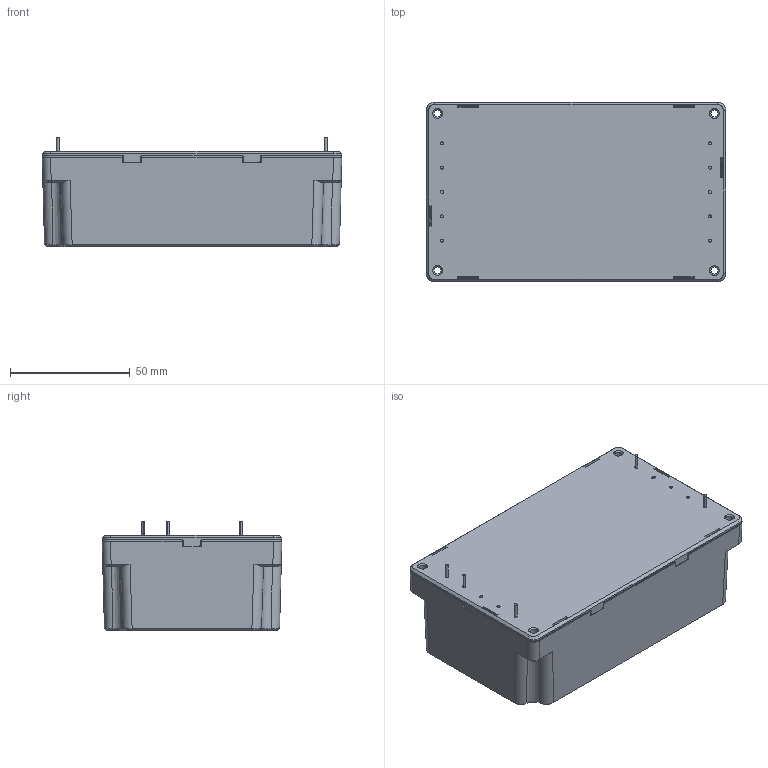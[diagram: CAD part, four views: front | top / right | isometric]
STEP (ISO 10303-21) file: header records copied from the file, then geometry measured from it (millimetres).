
FILE_DESCRIPTION((''),'2;1');
FILE_NAME('JVA401500SXX_ASM','2017-11-02T',('eng706'),(''),'PRO/ENGINEER BY PARAMETRIC TECHNOLOGY CORPORATION, 2014000','PRO/ENGINEER BY PARAMETRIC TECHNOLOGY CORPORATION, 2014000','');
FILE_SCHEMA(('AUTOMOTIVE_DESIGN { 1 0 10303 214 1 1 1 1 }'));
Products named in the file (7): MANIFOLD_SOLID_BREP_102692; MANIFOLD_SOLID_BREP_102780; MANIFOLD_SOLID_BREP_102868; MANIFOLD_SOLID_BREP_102956; MANIFOLD_SOLID_BREP_103044; MANIFOLD_SOLID_BREP_103132; JVA401500SXX_ASM
Assembly tree (6 placements, depth 2):
  JVA401500SXX_ASM
    MANIFOLD_SOLID_BREP_102692
    MANIFOLD_SOLID_BREP_102780
    MANIFOLD_SOLID_BREP_102868
    MANIFOLD_SOLID_BREP_102956
    MANIFOLD_SOLID_BREP_103044
    MANIFOLD_SOLID_BREP_103132
Bounding box: 124.98 x 74.99 x 45.8 mm (x, y, z)
Volume: 58884.9 mm3; surface area: 69213.9 mm2
Topology: 6 solids, 6 shells, 2490 faces, 6232 edges, 4094 vertices
Faces by surface type: plane 2164, cylinder 186, bspline 72, cone 58, extrusion 10
Entity records: 101132 total; most frequent: CARTESIAN_POINT 24090, ORIENTED_EDGE 12452, DIRECTION 11008, EDGE_CURVE 6226, VECTOR 5482, LINE 5472, VERTEX_POINT 4094, EDGE_LOOP 2890
